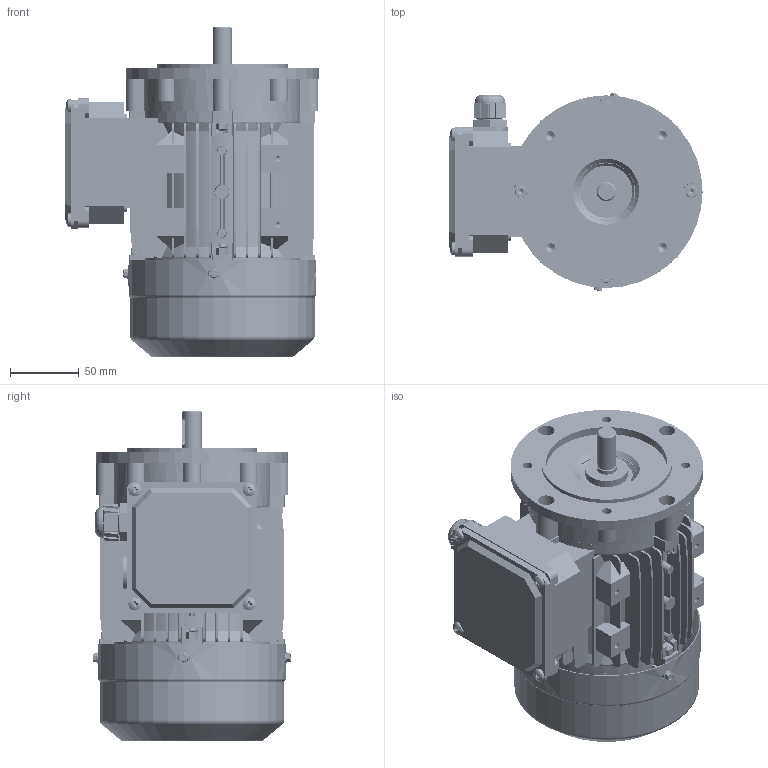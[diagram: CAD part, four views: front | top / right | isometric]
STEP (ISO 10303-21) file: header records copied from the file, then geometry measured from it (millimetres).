
FILE_DESCRIPTION (( 'STEP AP203' ), '1' );
FILE_NAME ('MS71M B14B 3D蚾饜芞.STEP', '2024-08-23T08:54:14', ( 'User' ), ( 'China' ), 'SwSTEP 2.0', 'SolidWorks 2018', '' );
FILE_SCHEMA (( 'CONFIG_CONTROL_DESIGN' ));
Length unit declared in the file: millimetre
Products named in the file (20): MS71M B14B 3D蚾饜芞; hexagon socket head cap screws gb_GB_FASTENER_SCREWS_HSHCS M5X25-S; hexagon socket head cap screw_as_AS 1420 - M5 x 25-S; spring lock washers--normal type gb_GB_FASTENER_WASHER_SW 5; hexagon nut (grades c) as_AS 1112.3 C- M5-S; hex nuts, style 1-grades ab gb_GB_FASTENER_NUT_SNAB1 M5-N; 8.306.07101MS71邧脯瑞欶; 蚐猾25X14X4; hex washer head screw_as_AS-NZS 1427 HW - M4 x 6-N; 黑芛20X1.5; pan cross head screw_as_AS-NZS 1427 PC- M4 x 8-S; MS63-71諉盄碟菁釱; pan cross head screw_as_AS-NZS 1427 PC- M5 x 8-S; 8.034.07101MS71 S儂褲; MS63-71諉盄碟裔; 蹟杶郋M20X1.5; 8.013.07102MS71綴傷裔; 8.013.07118MS71B14B傷裔; 蹟簸M20X1.5; 8.200.07101MS71 S蛌粣
Assembly tree (41 placements, depth 2):
  MS71M B14B 3D蚾饜芞
    8.034.07101MS71 S儂褲
    8.013.07102MS71綴傷裔
    8.200.07101MS71 S蛌粣
    hexagon socket head cap screw_as_AS 1420 - M5 x 25-S  x4
    hexagon nut (grades c) as_AS 1112.3 C- M5-S  x4
    8.306.07101MS71邧脯瑞欶
    hex washer head screw_as_AS-NZS 1427 HW - M4 x 6-N  x3
    pan cross head screw_as_AS-NZS 1427 PC- M4 x 8-S  x4
    pan cross head screw_as_AS-NZS 1427 PC- M5 x 8-S  x4
    蹟杶郋M20X1.5
    蹟簸M20X1.5
    hexagon socket head cap screws gb_GB_FASTENER_SCREWS_HSHCS M5X25-S  x4
    spring lock washers--normal type gb_GB_FASTENER_WASHER_SW 5  x4
    hex nuts, style 1-grades ab gb_GB_FASTENER_NUT_SNAB1 M5-N  x3
    蚐猾25X14X4
    黑芛20X1.5
    MS63-71諉盄碟菁釱
    MS63-71諉盄碟裔
    8.013.07118MS71B14B傷裔
Bounding box: 184 x 143.8 x 240.1 mm (x, y, z)
Volume: 647539.8 mm3; surface area: 469838.8 mm2
Topology: 41 solids, 50 shells, 6069 faces, 14705 edges, 8778 vertices
Faces by surface type: plane 2192, cone 1979, cylinder 1574, bspline 200, torus 108, sphere 16
Entity records: 138204 total; most frequent: CARTESIAN_POINT 46132, ORIENTED_EDGE 19534, DIRECTION 17414, EDGE_CURVE 9767, VERTEX_POINT 6210, AXIS2_PLACEMENT_3D 5943, LINE 5528, VECTOR 5528
